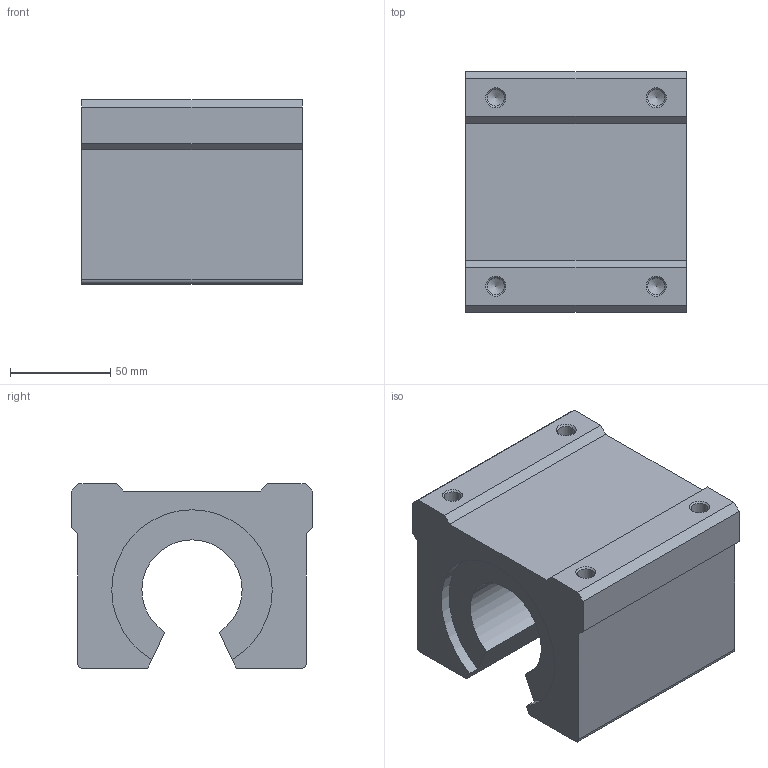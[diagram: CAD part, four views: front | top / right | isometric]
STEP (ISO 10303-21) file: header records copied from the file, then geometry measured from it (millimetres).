
FILE_DESCRIPTION( ( 'Unknown' ), '1' );
FILE_NAME( 'D:/累诀/己绕皋墨飘肺葱胶/11-04-06_档搁累己/01_府聪绢何教/SSBR/SBR50SA.stp', 'Unknown', ( 'Unknown' ), ( 'Unknown' ), 'PSStep 11.0', 'Unknown', ' ' );
FILE_SCHEMA( ( 'AUTOMOTIVE_DESIGN { 1 0 10303 214 1 1 1 1 }' ) );
Length unit declared in the file: millimetre
Products named in the file (1): SBR__
Bounding box: 110 x 120 x 92 mm (x, y, z)
Volume: 826744.9 mm3; surface area: 78354.8 mm2
Topology: 1 solids, 1 shells, 42 faces, 112 edges, 72 vertices
Faces by surface type: plane 21, cylinder 13, cone 8
Full cylindrical faces by diameter (mm): 8.376 x8
Entity records: 1514 total; most frequent: DIRECTION 200, CARTESIAN_POINT 199, ORIENTED_EDGE 176, EDGE_CURVE 88, AXIS2_PLACEMENT_3D 69, VERTEX_POINT 68, LINE 62, VECTOR 62
